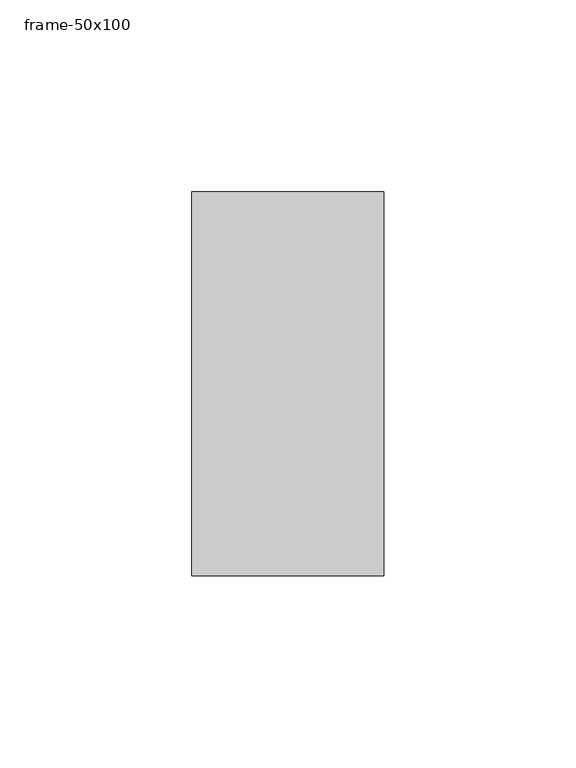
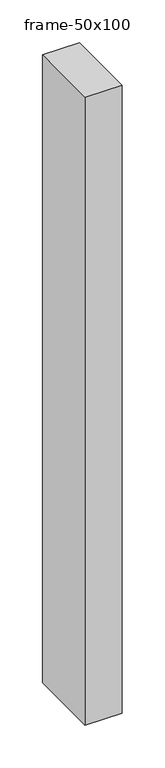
"""IFC4 building model written with IfcOpenShell, lengths in millimetres: member geometry, 長方形マリオン : frame-50x100."""

import ifcopenshell
import ifcopenshell.guid

model = None  # the IFC model being written
_history = None  # IfcOwnerHistory: only IFC2X3 demands one
_inside = {}  # id of a spatial element -> (the spatial element, [elements in it])
_under = {}  # id of a project, library or spatial element -> (it, [spatial elements below it])
_declared = {}  # id of a project -> (the project, [libraries it declares])
_typed = {}  # id of a type object -> (the type object, [elements of that type])
_made_of = {}  # id of a material, layer set ... -> (it, [elements and type objects made of it])


def new_model(schema):
    """Start an empty IFC model of exactly this schema.

    Asked for "IFC4X3", IfcOpenShell would pick the latest addendum, in which some entities
    have other attributes; the version numbers below select the first issue.
    IFC2X3 requires an IfcOwnerHistory on every rooted entity: one is made here for all.
    """
    global model, _history
    if schema == "IFC4X3":
        model = ifcopenshell.file(schema_version=(4, 3, 0, 0))
    else:
        model = ifcopenshell.file(schema=schema)
    _inside.clear()
    _under.clear()
    _declared.clear()
    _typed.clear()
    _made_of.clear()
    _history = None
    if model.schema == "IFC2X3":
        org = make("IfcOrganization", Name="unknown")
        user = make(
            "IfcPersonAndOrganization",
            ThePerson=make("IfcPerson", FamilyName="unknown"),
            TheOrganization=org,
        )
        app = make(
            "IfcApplication",
            ApplicationDeveloper=org,
            Version="unknown",
            ApplicationFullName="unknown",
            ApplicationIdentifier="unknown",
        )
        _history = make(
            "IfcOwnerHistory",
            OwningUser=user,
            OwningApplication=app,
            ChangeAction="ADDED",
            CreationDate=0,
        )
    return model


def make(cls, **values):
    """One entity of the class cls with the attributes given. An attribute that is None is left unset."""
    return model.create_entity(
        cls, **{name: value for name, value in values.items() if value is not None}
    )


def rooted(cls, **values):
    """An entity with a GlobalId (a new one), such as an element, a storey or a relation."""
    return make(cls, GlobalId=ifcopenshell.guid.new(), OwnerHistory=_history, **values)


def si_unit(unit_type, name, prefix=None):
    """IfcSIUnit, for example si_unit("LENGTHUNIT", "METRE", prefix="MILLI")."""
    return make("IfcSIUnit", UnitType=unit_type, Prefix=prefix, Name=name)


def assignment(units):
    """IfcUnitAssignment: the units of a project."""
    return None if units is None else make("IfcUnitAssignment", Units=units)


def point(xyz):
    """IfcCartesianPoint."""
    return None if xyz is None else make("IfcCartesianPoint", Coordinates=xyz)


def direction(xyz):
    """IfcDirection."""
    return None if xyz is None else make("IfcDirection", DirectionRatios=xyz)


def frame(location, z_axis=None, x_axis=None):
    """IfcAxis2Placement3D, a coordinate frame: its origin and axes. An axis left out is left unset."""
    return make(
        "IfcAxis2Placement3D",
        Location=point(location),
        Axis=direction(z_axis),
        RefDirection=direction(x_axis),
    )


def origin():
    """The frame at (0, 0, 0) with its axes left unset."""
    return frame((0.0, 0.0, 0.0))


def place(relative_to, where):
    """IfcLocalPlacement: puts the frame where relative to a parent placement (None: the world)."""
    return make(
        "IfcLocalPlacement", PlacementRelTo=relative_to, RelativePlacement=where
    )


def context(
    kind, dimensions, precision=None, world=None, true_north=None, identifier=None
):
    """IfcGeometricRepresentationContext, for example the 3D "Model" context."""
    return make(
        "IfcGeometricRepresentationContext",
        ContextIdentifier=identifier,
        ContextType=kind,
        CoordinateSpaceDimension=dimensions,
        Precision=precision,
        WorldCoordinateSystem=world,
        TrueNorth=true_north,
    )


def project(units=None, contexts=None):
    """IfcProject with its units and contexts."""
    return rooted(
        "IfcProject",
        Name="project",
        RepresentationContexts=contexts,
        UnitsInContext=assignment(units),
    )


def spatial(cls, under=None, at=None, **own):
    """A site, building, storey or space (cls), placed at a placement, below another one or the project."""
    s = rooted(cls, ObjectPlacement=at, **own)
    if under is not None:
        _under.setdefault(under.id(), (under, []))[1].append(s)
    return s


def polyline(points):
    """IfcPolyline through the points."""
    return make("IfcPolyline", Points=[point(p) for p in points])


def outline(outer, holes=None, kind="AREA"):
    """IfcArbitraryClosedProfileDef: a profile drawn as a closed curve; with holes, ...WithVoids."""
    if holes is None:
        return make("IfcArbitraryClosedProfileDef", ProfileType=kind, OuterCurve=outer)
    return make(
        "IfcArbitraryProfileDefWithVoids",
        ProfileType=kind,
        OuterCurve=outer,
        InnerCurves=holes,
    )


def extrude(swept, where, along, depth):
    """IfcExtrudedAreaSolid: the profile swept, set in the frame where, extruded along a direction by depth."""
    return make(
        "IfcExtrudedAreaSolid",
        SweptArea=swept,
        Position=where,
        ExtrudedDirection=direction(along),
        Depth=depth,
    )


def shape(context_of_items, identifier, shape_type, items):
    """IfcShapeRepresentation: the items that make up one representation, for example the "Body"."""
    return make(
        "IfcShapeRepresentation",
        ContextOfItems=context_of_items,
        RepresentationIdentifier=identifier,
        RepresentationType=shape_type,
        Items=items,
    )


def source(mapping_origin, context_of_items, identifier, shape_type, items):
    """IfcRepresentationMap: a shape defined once, which mapped items show again and again."""
    return make(
        "IfcRepresentationMap",
        MappingOrigin=mapping_origin,
        MappedRepresentation=shape(context_of_items, identifier, shape_type, items),
    )


def transform(
    local_origin,
    x_axis=None,
    y_axis=None,
    z_axis=None,
    scale=None,
    scale2=None,
    scale3=None,
    uniform=True,
):
    """IfcCartesianTransformationOperator3D, or its non-uniform kind. x_axis, y_axis, z_axis: its Axis1, 2, 3."""
    if uniform:
        return make(
            "IfcCartesianTransformationOperator3D",
            Axis1=direction(x_axis),
            Axis2=direction(y_axis),
            LocalOrigin=point(local_origin),
            Scale=scale,
            Axis3=direction(z_axis),
        )
    return make(
        "IfcCartesianTransformationOperator3DnonUniform",
        Axis1=direction(x_axis),
        Axis2=direction(y_axis),
        LocalOrigin=point(local_origin),
        Scale=scale,
        Axis3=direction(z_axis),
        Scale2=scale2,
        Scale3=scale3,
    )


def mapped(mapping_source, mapping_target):
    """IfcMappedItem: shows the shape of a source again, moved by a transform."""
    return make(
        "IfcMappedItem", MappingSource=mapping_source, MappingTarget=mapping_target
    )


def made_of(thing, what):
    """Note that an element or type object is made of a material, layer set ...; save() writes the relation."""
    if what is not None:
        _made_of.setdefault(what.id(), (what, []))[1].append(thing)
    return thing


def element(
    cls,
    number,
    at=None,
    inside=None,
    cuts=None,
    type_object=None,
    material=None,
    context=None,
    identifier="Body",
    shape_type=None,
    held_by="IfcProductDefinitionShape",
    body=None,
    shapes=None,
    **own,
):
    """One element of the class cls, such as IfcWall. Its Tag is "e" and its number.

    at: its placement. inside: the storey or other place that contains it. cuts: it is an
    opening in that element (IfcRelVoidsElement). A single representation is given by context,
    identifier, shape_type and body (its items); several are given by shapes. held_by: the class
    of the entity that holds the representations. save() writes the other relations.
    """
    e = rooted(cls, Tag="e%d" % number, ObjectPlacement=at, **own)
    if body is not None:
        shapes = [shape(context, identifier, shape_type, body)]
    if shapes is not None:
        e.Representation = make(held_by, Representations=shapes)
    if inside is not None:
        _inside.setdefault(inside.id(), (inside, []))[1].append(e)
    if cuts is not None:
        rooted(
            "IfcRelVoidsElement", RelatingBuildingElement=cuts, RelatedOpeningElement=e
        )
    if type_object is not None:
        _typed.setdefault(type_object.id(), (type_object, []))[1].append(e)
    return made_of(e, material)


def aggregate(whole, parts):
    """IfcRelAggregates: a whole, such as a stair, and the parts it consists of."""
    return rooted("IfcRelAggregates", RelatingObject=whole, RelatedObjects=parts)


def save(model, path):
    """Write the relations noted so far, then the file.

    IfcRelAggregates (storeys below a building ...), IfcRelContainedInSpatialStructure (elements
    in a storey), IfcRelDefinesByType, IfcRelAssociatesMaterial and IfcRelDeclares: one each for
    every whole, place, type object, material and project.
    """
    for whole, parts in _under.values():
        aggregate(whole, parts)
    for where, things in _inside.values():
        rooted(
            "IfcRelContainedInSpatialStructure",
            RelatedElements=things,
            RelatingStructure=where,
        )
    for kind, things in _typed.values():
        rooted("IfcRelDefinesByType", RelatedObjects=things, RelatingType=kind)
    for what, things in _made_of.values():
        rooted("IfcRelAssociatesMaterial", RelatedObjects=things, RelatingMaterial=what)
    for by, libraries in _declared.values():
        rooted("IfcRelDeclares", RelatingContext=by, RelatedDefinitions=libraries)
    model.write(path)


def frame_50x100_909e5fd4(model_context):
    return source(origin(), model_context, "Body", "SweptSolid", [
        extrude(outline(polyline([(0.0, 50.0), (0.0, -50.0), (-50.0, -50.0), (-50.0, 50.0), (0.0, 50.0)])), frame((0.0, 0.0, -897.6376407), z_axis=(0.0, 0.0, 1.0), x_axis=(1.0, 0.0, 0.0)), (0.0, 0.0, 1.0), 897.6376407),
    ])


if __name__ == "__main__":
    model = new_model("IFC4")
    model_context = context("Model", 3, world=origin())
    ifc_project = project(units=[si_unit("LENGTHUNIT", "METRE", prefix="MILLI")], contexts=[model_context])
    site = spatial("IfcSite", under=ifc_project)
    building = spatial("IfcBuilding", under=site)
    placement = place(None, origin())
    frame_50x100_shape = frame_50x100_909e5fd4(model_context)
    element("IfcMember", 1, ObjectType="長方形マリオン : frame-50x100", at=placement, inside=building, context=model_context, shape_type="MappedRepresentation", body=[
        mapped(frame_50x100_shape, transform((0.0, 0.0, 0.0), x_axis=(1.0, 0.0, 0.0), y_axis=(0.0, 1.0, 0.0), z_axis=(0.0, 0.0, 1.0))),
    ])
    save(model, "model.ifc")
